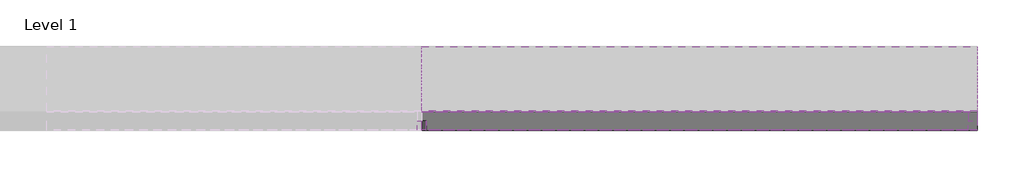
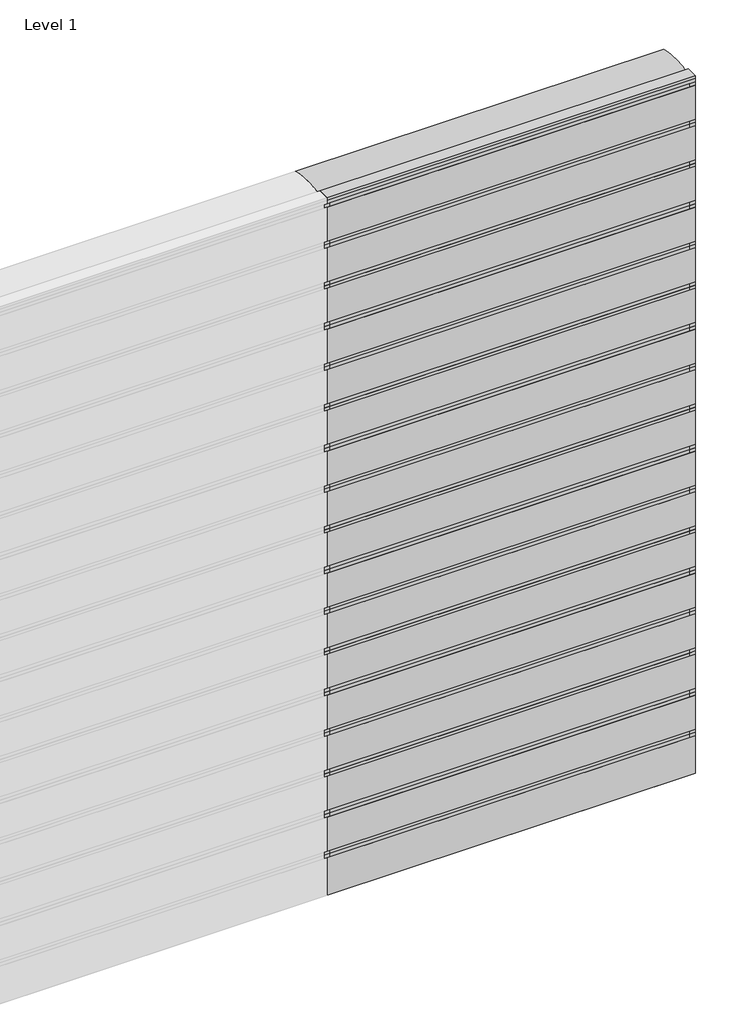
# One storey, part 2 of 2: 43 members, 36 plates.
"""IFC4 building model written with IfcOpenShell, lengths in millimetres."""

import ifcopenshell
import ifcopenshell.guid

model = None  # the IFC model being written
_history = None  # IfcOwnerHistory: only IFC2X3 demands one
_inside = {}  # id of a spatial element -> (the spatial element, [elements in it])
_under = {}  # id of a project, library or spatial element -> (it, [spatial elements below it])
_declared = {}  # id of a project -> (the project, [libraries it declares])
_typed = {}  # id of a type object -> (the type object, [elements of that type])
_made_of = {}  # id of a material, layer set ... -> (it, [elements and type objects made of it])


def new_model(schema):
    """Start an empty IFC model of exactly this schema.

    Asked for "IFC4X3", IfcOpenShell would pick the latest addendum, in which some entities
    have other attributes; the version numbers below select the first issue.
    IFC2X3 requires an IfcOwnerHistory on every rooted entity: one is made here for all.
    """
    global model, _history
    if schema == "IFC4X3":
        model = ifcopenshell.file(schema_version=(4, 3, 0, 0))
    else:
        model = ifcopenshell.file(schema=schema)
    _inside.clear()
    _under.clear()
    _declared.clear()
    _typed.clear()
    _made_of.clear()
    _history = None
    if model.schema == "IFC2X3":
        org = make("IfcOrganization", Name="unknown")
        user = make(
            "IfcPersonAndOrganization",
            ThePerson=make("IfcPerson", FamilyName="unknown"),
            TheOrganization=org,
        )
        app = make(
            "IfcApplication",
            ApplicationDeveloper=org,
            Version="unknown",
            ApplicationFullName="unknown",
            ApplicationIdentifier="unknown",
        )
        _history = make(
            "IfcOwnerHistory",
            OwningUser=user,
            OwningApplication=app,
            ChangeAction="ADDED",
            CreationDate=0,
        )
    return model


def make(cls, **values):
    """One entity of the class cls with the attributes given. An attribute that is None is left unset."""
    return model.create_entity(
        cls, **{name: value for name, value in values.items() if value is not None}
    )


def rooted(cls, **values):
    """An entity with a GlobalId (a new one), such as an element, a storey or a relation."""
    return make(cls, GlobalId=ifcopenshell.guid.new(), OwnerHistory=_history, **values)


def si_unit(unit_type, name, prefix=None):
    """IfcSIUnit, for example si_unit("LENGTHUNIT", "METRE", prefix="MILLI")."""
    return make("IfcSIUnit", UnitType=unit_type, Prefix=prefix, Name=name)


def assignment(units):
    """IfcUnitAssignment: the units of a project."""
    return None if units is None else make("IfcUnitAssignment", Units=units)


def point(xyz):
    """IfcCartesianPoint."""
    return None if xyz is None else make("IfcCartesianPoint", Coordinates=xyz)


def direction(xyz):
    """IfcDirection."""
    return None if xyz is None else make("IfcDirection", DirectionRatios=xyz)


def frame(location, z_axis=None, x_axis=None):
    """IfcAxis2Placement3D, a coordinate frame: its origin and axes. An axis left out is left unset."""
    return make(
        "IfcAxis2Placement3D",
        Location=point(location),
        Axis=direction(z_axis),
        RefDirection=direction(x_axis),
    )


def origin():
    """The frame at (0, 0, 0) with its axes left unset."""
    return frame((0.0, 0.0, 0.0))


def origin_with_axes():
    """The frame at (0, 0, 0) with the z axis (0, 0, 1) and the x axis (1, 0, 0) written out."""
    return frame((0.0, 0.0, 0.0), z_axis=(0.0, 0.0, 1.0), x_axis=(1.0, 0.0, 0.0))


def place(relative_to, where):
    """IfcLocalPlacement: puts the frame where relative to a parent placement (None: the world)."""
    return make(
        "IfcLocalPlacement", PlacementRelTo=relative_to, RelativePlacement=where
    )


def context(
    kind, dimensions, precision=None, world=None, true_north=None, identifier=None
):
    """IfcGeometricRepresentationContext, for example the 3D "Model" context."""
    return make(
        "IfcGeometricRepresentationContext",
        ContextIdentifier=identifier,
        ContextType=kind,
        CoordinateSpaceDimension=dimensions,
        Precision=precision,
        WorldCoordinateSystem=world,
        TrueNorth=true_north,
    )


def project(units=None, contexts=None):
    """IfcProject with its units and contexts."""
    return rooted(
        "IfcProject",
        Name="project",
        RepresentationContexts=contexts,
        UnitsInContext=assignment(units),
    )


def spatial(cls, under=None, at=None, **own):
    """A site, building, storey or space (cls), placed at a placement, below another one or the project."""
    s = rooted(cls, ObjectPlacement=at, **own)
    if under is not None:
        _under.setdefault(under.id(), (under, []))[1].append(s)
    return s


def polyline(points):
    """IfcPolyline through the points."""
    return make("IfcPolyline", Points=[point(p) for p in points])


def ellipse_curve(where, semi_axis1, semi_axis2):
    """IfcEllipse in the frame where."""
    return make(
        "IfcEllipse", Position=where, SemiAxis1=semi_axis1, SemiAxis2=semi_axis2
    )


def trimmed(basis, trim1, trim2, sense, master):
    """IfcTrimmedCurve: the piece of a basis curve between two trims."""
    return make(
        "IfcTrimmedCurve",
        BasisCurve=basis,
        Trim1=trim1,
        Trim2=trim2,
        SenseAgreement=sense,
        MasterRepresentation=master,
    )


def outline(outer, holes=None, kind="AREA"):
    """IfcArbitraryClosedProfileDef: a profile drawn as a closed curve; with holes, ...WithVoids."""
    if holes is None:
        return make("IfcArbitraryClosedProfileDef", ProfileType=kind, OuterCurve=outer)
    return make(
        "IfcArbitraryProfileDefWithVoids",
        ProfileType=kind,
        OuterCurve=outer,
        InnerCurves=holes,
    )


def extrude(swept, where, along, depth):
    """IfcExtrudedAreaSolid: the profile swept, set in the frame where, extruded along a direction by depth."""
    return make(
        "IfcExtrudedAreaSolid",
        SweptArea=swept,
        Position=where,
        ExtrudedDirection=direction(along),
        Depth=depth,
    )


def shape(context_of_items, identifier, shape_type, items):
    """IfcShapeRepresentation: the items that make up one representation, for example the "Body"."""
    return make(
        "IfcShapeRepresentation",
        ContextOfItems=context_of_items,
        RepresentationIdentifier=identifier,
        RepresentationType=shape_type,
        Items=items,
    )


def source(mapping_origin, context_of_items, identifier, shape_type, items):
    """IfcRepresentationMap: a shape defined once, which mapped items show again and again."""
    return make(
        "IfcRepresentationMap",
        MappingOrigin=mapping_origin,
        MappedRepresentation=shape(context_of_items, identifier, shape_type, items),
    )


def transform(
    local_origin,
    x_axis=None,
    y_axis=None,
    z_axis=None,
    scale=None,
    scale2=None,
    scale3=None,
    uniform=True,
):
    """IfcCartesianTransformationOperator3D, or its non-uniform kind. x_axis, y_axis, z_axis: its Axis1, 2, 3."""
    if uniform:
        return make(
            "IfcCartesianTransformationOperator3D",
            Axis1=direction(x_axis),
            Axis2=direction(y_axis),
            LocalOrigin=point(local_origin),
            Scale=scale,
            Axis3=direction(z_axis),
        )
    return make(
        "IfcCartesianTransformationOperator3DnonUniform",
        Axis1=direction(x_axis),
        Axis2=direction(y_axis),
        LocalOrigin=point(local_origin),
        Scale=scale,
        Axis3=direction(z_axis),
        Scale2=scale2,
        Scale3=scale3,
    )


def mapped(mapping_source, mapping_target):
    """IfcMappedItem: shows the shape of a source again, moved by a transform."""
    return make(
        "IfcMappedItem", MappingSource=mapping_source, MappingTarget=mapping_target
    )


def made_of(thing, what):
    """Note that an element or type object is made of a material, layer set ...; save() writes the relation."""
    if what is not None:
        _made_of.setdefault(what.id(), (what, []))[1].append(thing)
    return thing


def element(
    cls,
    number,
    at=None,
    inside=None,
    cuts=None,
    type_object=None,
    material=None,
    context=None,
    identifier="Body",
    shape_type=None,
    held_by="IfcProductDefinitionShape",
    body=None,
    shapes=None,
    **own,
):
    """One element of the class cls, such as IfcWall. Its Tag is "e" and its number.

    at: its placement. inside: the storey or other place that contains it. cuts: it is an
    opening in that element (IfcRelVoidsElement). A single representation is given by context,
    identifier, shape_type and body (its items); several are given by shapes. held_by: the class
    of the entity that holds the representations. save() writes the other relations.
    """
    e = rooted(cls, Tag="e%d" % number, ObjectPlacement=at, **own)
    if body is not None:
        shapes = [shape(context, identifier, shape_type, body)]
    if shapes is not None:
        e.Representation = make(held_by, Representations=shapes)
    if inside is not None:
        _inside.setdefault(inside.id(), (inside, []))[1].append(e)
    if cuts is not None:
        rooted(
            "IfcRelVoidsElement", RelatingBuildingElement=cuts, RelatedOpeningElement=e
        )
    if type_object is not None:
        _typed.setdefault(type_object.id(), (type_object, []))[1].append(e)
    return made_of(e, material)


def aggregate(whole, parts):
    """IfcRelAggregates: a whole, such as a stair, and the parts it consists of."""
    return rooted("IfcRelAggregates", RelatingObject=whole, RelatedObjects=parts)


def save(model, path):
    """Write the relations noted so far, then the file.

    IfcRelAggregates (storeys below a building ...), IfcRelContainedInSpatialStructure (elements
    in a storey), IfcRelDefinesByType, IfcRelAssociatesMaterial and IfcRelDeclares: one each for
    every whole, place, type object, material and project.
    """
    for whole, parts in _under.values():
        aggregate(whole, parts)
    for where, things in _inside.values():
        rooted(
            "IfcRelContainedInSpatialStructure",
            RelatedElements=things,
            RelatingStructure=where,
        )
    for kind, things in _typed.values():
        rooted("IfcRelDefinesByType", RelatedObjects=things, RelatingType=kind)
    for what, things in _made_of.values():
        rooted("IfcRelAssociatesMaterial", RelatedObjects=things, RelatingMaterial=what)
    for by, libraries in _declared.values():
        rooted("IfcRelDeclares", RelatingContext=by, RelatedDefinitions=libraries)
    model.write(path)


def plane_surface(at):
    """IfcPlane: the flat surface through the origin of the frame at, square to its z axis."""
    return make("IfcPlane", Position=at)


def extruded_surface(curve, direction_of_extrusion, depth):
    """IfcSurfaceOfLinearExtrusion: the curve pushed along a direction by depth."""
    return make(
        "IfcSurfaceOfLinearExtrusion",
        SweptCurve=make("IfcArbitraryOpenProfileDef", ProfileType="CURVE", Curve=curve),
        ExtrudedDirection=direction(direction_of_extrusion),
        Depth=depth,
    )


def advanced_brep(points, edges, surfaces, faces):
    """IfcAdvancedBrep: a solid bounded by faces that lie on surfaces and meet in shared edges.

    An edge is (start, end): straight between two places in points (the first is 0);
    or (start, end, curve); or (start, end, curve, False) where it runs against its curve.
    A face is (place in surfaces, loops), or (place, loops, False) where it looks against
    its surface's normal. A loop lists edges by number (the first is 1), with a minus sign
    where the edge is run from its end to its start. The first loop is the outer one.
    """
    corners = [point(p) for p in points]
    vertices = [make("IfcVertexPoint", VertexGeometry=c) for c in corners]
    made = []
    for start, end, *more in edges:
        made.append(
            make(
                "IfcEdgeCurve",
                EdgeStart=vertices[start],
                EdgeEnd=vertices[end],
                EdgeGeometry=more[0] if more else make("IfcPolyline", Points=[corners[start], corners[end]]),
                SameSense=more[1] if len(more) > 1 else True,
            )
        )
    hull = []
    for where, loops, *sense in faces:
        bounds = []
        for j, loop in enumerate(loops):
            ring = [make("IfcOrientedEdge", EdgeElement=made[abs(k) - 1], Orientation=k > 0) for k in loop]
            bounds.append(
                make(
                    "IfcFaceOuterBound" if j == 0 else "IfcFaceBound",
                    Bound=make("IfcEdgeLoop", EdgeList=ring),
                    Orientation=True,
                )
            )
        hull.append(make("IfcAdvancedFace", Bounds=bounds, FaceSurface=surfaces[where], SameSense=sense[0] if sense else True))
    return make("IfcAdvancedBrep", Outer=make("IfcClosedShell", CfsFaces=hull))


def rectangular_mullion_7b7f291e(model_context):
    return source(origin(), model_context, "Body", "AdvancedBrep", [
        advanced_brep(
        [(0.0, 53.0, 0.0), (0.0, 403.0, 0.0), (0.0, 53.0, -3000.0), (0.0, 403.0, -3000.0)],
        [
            (0, 1, ellipse_curve(frame((0.0, 228.0, 0.0), z_axis=(0.0, 0.0, 1.0), x_axis=(0.0, 1.0, 0.0)), 175.0, 28.5)),
            (1, 0, ellipse_curve(frame((0.0, 228.0, 0.0), z_axis=(0.0, 0.0, 1.0), x_axis=(0.0, 1.0, 0.0)), 175.0, 28.5)),
            (2, 3, ellipse_curve(frame((0.0, 228.0, -3000.0), z_axis=(0.0, 0.0, -1.0), x_axis=(0.0, 1.0, 0.0)), 175.0, 28.5)),
            (3, 2, ellipse_curve(frame((0.0, 228.0, -3000.0), z_axis=(0.0, 0.0, -1.0), x_axis=(0.0, 1.0, 0.0)), 175.0, 28.5)),
            (0, 2),
            (3, 1),
        ],
        [
            plane_surface(frame((0.0, -403.0, 0.0), z_axis=(0.0, 0.0, 1.0), x_axis=(-1.0, 0.0, 0.0))),
            plane_surface(frame((0.0, -403.0, -3000.0), z_axis=(0.0, 0.0, -1.0), x_axis=(-1.0, 0.0, 0.0))),
            extruded_surface(trimmed(ellipse_curve(frame((0.0, 228.0, -3000.0), z_axis=(0.0, 0.0, 1.0), x_axis=(0.0, 1.0, 0.0)), 175.0, 28.5), [point((0.0, 53.0, -3000.0))], [point((0.0, 403.0, -3000.0))], True, "CARTESIAN"), (0.0, 0.0, 3000.0), 3000.0),
            extruded_surface(trimmed(ellipse_curve(frame((0.0, 228.0, -3000.0), z_axis=(0.0, 0.0, 1.0), x_axis=(0.0, 1.0, 0.0)), 175.0, 28.5), [point((0.0, 403.0, -3000.0))], [point((0.0, 53.0, -3000.0))], True, "CARTESIAN"), (0.0, 0.0, 3000.0), 3000.0),
        ],
        [
            (0, [[1, 2]]),
            (1, [[3, 4]]),
            (2, [[-1, 5, -4, 6]]),
            (3, [[-2, -6, -3, -5]]),
        ],
    ),
    ])


def rectangular_mullion_94c598e1(model_context):
    return source(origin(), model_context, "Body", "SweptSolid", [
        extrude(outline(polyline([(25.0, 1.0), (25.0, -49.0), (-25.0, -49.0), (-25.0, 1.0), (25.0, 1.0)])), frame((0.0, 0.0, -350.0), z_axis=(0.0, 0.0, 1.0), x_axis=(1.0, 0.0, 0.0)), (0.0, 0.0, 1.0), 350.0),
    ])


def rectangular_mullion_98250b89(model_context):
    return source(origin(), model_context, "Body", "SweptSolid", [
        extrude(outline(polyline([(-50.0, 1.0), (0.0, 1.0), (0.0, -49.0), (-50.0, -49.0), (-50.0, 1.0)])), frame((0.0, 0.0, -350.0), z_axis=(0.0, 0.0, 1.0), x_axis=(1.0, 0.0, 0.0)), (0.0, 0.0, 1.0), 350.0),
    ])


def empty_system_panel_empty_44c4d881(model_context):
    return source(origin(), model_context, "Body", "SweptSolid", [
        extrude(outline(polyline([(1500.0, -50.0), (-1500.0, -50.0), (-1500.0, 50.0), (1500.0, 50.0), (1500.0, -50.0)])), origin_with_axes(), (0.0, 0.0, 1.0), 21.5),
    ])


def empty_system_panel_empty_7f9a0b37(model_context):
    return source(origin(), model_context, "Body", "SweptSolid", [
        extrude(outline(polyline([(1500.0, -50.0), (-1500.0, -50.0), (-1500.0, 50.0), (1500.0, 50.0), (1500.0, -50.0)])), origin_with_axes(), (0.0, 0.0, 1.0), 321.5),
    ])


def empty_system_panel_empty_ea27b686(model_context):
    return source(origin(), model_context, "Body", "SweptSolid", [
        extrude(outline(polyline([(1500.0, -50.0), (-1500.0, -50.0), (-1500.0, 50.0), (1500.0, 50.0), (1500.0, -50.0)])), origin_with_axes(), (0.0, 0.0, 1.0), 293.0),
    ])


def empty_system_panel_empty_a0d4dec4(model_context):
    return source(origin(), model_context, "Body", "SweptSolid", [
        extrude(outline(polyline([(1462.5, -50.0), (-1462.5, -50.0), (-1462.5, 50.0), (1462.5, 50.0), (1462.5, -50.0)])), origin_with_axes(), (0.0, 0.0, 1.0), 350.0),
    ])


def empty_system_panel_empty_5b0c2a42(model_context):
    return source(origin(), model_context, "Body", "SweptSolid", [
        extrude(outline(polyline([(1500.0, -50.0), (-1500.0, -50.0), (-1500.0, 50.0), (1500.0, 50.0), (1500.0, -50.0)])), origin_with_axes(), (0.0, 0.0, 1.0), 50.0),
    ])


model = new_model("IFC4")

# Units and contexts
model_context = context("Model", 3, world=origin())
ifc_project = project(units=[si_unit("LENGTHUNIT", "METRE", prefix="MILLI")], contexts=[model_context])

# Site, building, storey
site = spatial("IfcSite", under=ifc_project)
building = spatial("IfcBuilding", under=site)
storey = spatial("IfcBuildingStorey", under=building, Name="Level 1", Elevation=0.0)

# Members
placement = place(None, origin())
rectangular_mullion_shape = rectangular_mullion_7b7f291e(model_context)
element("IfcMember", 1, ObjectType="Rectangular Mullion : RSen_21_CWM_blade - 350 ellips - 0°_gen_duco projects", at=placement, inside=storey, context=model_context, shape_type="MappedRepresentation", body=[
    mapped(rectangular_mullion_shape, transform((3000.0, 3000.0, 3150.0), x_axis=(0.0, 0.0, 1.0), y_axis=(0.0, 1.0, 0.0), z_axis=(-1.0, 0.0, 0.0))),
])
element("IfcMember", 2, ObjectType="Rectangular Mullion : RSen_21_CWM_blade - 350 ellips - 0°_gen_duco projects", at=placement, inside=storey, context=model_context, shape_type="MappedRepresentation", body=[
    mapped(rectangular_mullion_shape, transform((3000.0, 3000.0, 3500.0), x_axis=(0.0, 0.0, 1.0), y_axis=(0.0, 1.0, 0.0), z_axis=(-1.0, 0.0, 0.0))),
])
element("IfcMember", 3, ObjectType="Rectangular Mullion : RSen_21_CWM_blade - 350 ellips - 0°_gen_duco projects", at=placement, inside=storey, context=model_context, shape_type="MappedRepresentation", body=[
    mapped(rectangular_mullion_shape, transform((3000.0, 3000.0, 3850.0), x_axis=(0.0, 0.0, 1.0), y_axis=(0.0, 1.0, 0.0), z_axis=(-1.0, 0.0, 0.0))),
])
element("IfcMember", 4, ObjectType="Rectangular Mullion : RSen_21_CWM_blade - 350 ellips - 0°_gen_duco projects", at=placement, inside=storey, context=model_context, shape_type="MappedRepresentation", body=[
    mapped(rectangular_mullion_shape, transform((3000.0, 3000.0, 4200.0), x_axis=(0.0, 0.0, 1.0), y_axis=(0.0, 1.0, 0.0), z_axis=(-1.0, 0.0, 0.0))),
])
element("IfcMember", 5, ObjectType="Rectangular Mullion : RSen_21_CWM_blade - 350 ellips - 0°_gen_duco projects", at=placement, inside=storey, context=model_context, shape_type="MappedRepresentation", body=[
    mapped(rectangular_mullion_shape, transform((3000.0, 3000.0, 4550.0), x_axis=(0.0, 0.0, 1.0), y_axis=(0.0, 1.0, 0.0), z_axis=(-1.0, 0.0, 0.0))),
])
element("IfcMember", 6, ObjectType="Rectangular Mullion : RSen_21_CWM_blade - 350 ellips - 0°_gen_duco projects", at=placement, inside=storey, context=model_context, shape_type="MappedRepresentation", body=[
    mapped(rectangular_mullion_shape, transform((3000.0, 3000.0, 4900.0), x_axis=(0.0, 0.0, 1.0), y_axis=(0.0, 1.0, 0.0), z_axis=(-1.0, 0.0, 0.0))),
])
element("IfcMember", 7, ObjectType="Rectangular Mullion : RSen_21_CWM_blade - 350 ellips - 0°_gen_duco projects", at=placement, inside=storey, context=model_context, shape_type="MappedRepresentation", body=[
    mapped(rectangular_mullion_shape, transform((3000.0, 3000.0, 5250.0), x_axis=(0.0, 0.0, 1.0), y_axis=(0.0, 1.0, 0.0), z_axis=(-1.0, 0.0, 0.0))),
])
element("IfcMember", 8, ObjectType="Rectangular Mullion : RSen_21_CWM_blade - 350 ellips - 0°_gen_duco projects", at=placement, inside=storey, context=model_context, shape_type="MappedRepresentation", body=[
    mapped(rectangular_mullion_shape, transform((3000.0, 3000.0, 5600.0), x_axis=(0.0, 0.0, 1.0), y_axis=(0.0, 1.0, 0.0), z_axis=(-1.0, 0.0, 0.0))),
])
element("IfcMember", 9, ObjectType="Rectangular Mullion : RSen_21_CWM_blade - 350 ellips - 0°_gen_duco projects", at=placement, inside=storey, context=model_context, shape_type="MappedRepresentation", body=[
    mapped(rectangular_mullion_shape, transform((3000.0, 3000.0, 5950.0), x_axis=(0.0, 0.0, 1.0), y_axis=(0.0, 1.0, 0.0), z_axis=(-1.0, 0.0, 0.0))),
])
rectangular_mullion_2_shape = rectangular_mullion_94c598e1(model_context)
element("IfcMember", 10, ObjectType="Rectangular Mullion : RSen_21_CWM_support profile 50x50_gen_duco projects", at=placement, inside=storey, context=model_context, shape_type="MappedRepresentation", body=[
    mapped(rectangular_mullion_2_shape, transform((3000.0, 3000.0, 0.0), x_axis=(-1.0, 0.0, 0.0), y_axis=(0.0, 1.0, 0.0), z_axis=(0.0, 0.0, -1.0))),
])
element("IfcMember", 11, ObjectType="Rectangular Mullion : RSen_21_CWM_support profile 50x50_gen_duco projects", at=placement, inside=storey, context=model_context, shape_type="MappedRepresentation", body=[
    mapped(rectangular_mullion_2_shape, transform((3000.0, 3000.0, 350.0), x_axis=(-1.0, 0.0, 0.0), y_axis=(0.0, 1.0, 0.0), z_axis=(0.0, 0.0, -1.0))),
])
element("IfcMember", 12, ObjectType="Rectangular Mullion : RSen_21_CWM_support profile 50x50_gen_duco projects", at=placement, inside=storey, context=model_context, shape_type="MappedRepresentation", body=[
    mapped(rectangular_mullion_2_shape, transform((3000.0, 3000.0, 700.0), x_axis=(-1.0, 0.0, 0.0), y_axis=(0.0, 1.0, 0.0), z_axis=(0.0, 0.0, -1.0))),
])
element("IfcMember", 13, ObjectType="Rectangular Mullion : RSen_21_CWM_support profile 50x50_gen_duco projects", at=placement, inside=storey, context=model_context, shape_type="MappedRepresentation", body=[
    mapped(rectangular_mullion_2_shape, transform((3000.0, 3000.0, 1050.0), x_axis=(-1.0, 0.0, 0.0), y_axis=(0.0, 1.0, 0.0), z_axis=(0.0, 0.0, -1.0))),
])
element("IfcMember", 14, ObjectType="Rectangular Mullion : RSen_21_CWM_support profile 50x50_gen_duco projects", at=placement, inside=storey, context=model_context, shape_type="MappedRepresentation", body=[
    mapped(rectangular_mullion_2_shape, transform((3000.0, 3000.0, 1400.0), x_axis=(-1.0, 0.0, 0.0), y_axis=(0.0, 1.0, 0.0), z_axis=(0.0, 0.0, -1.0))),
])
element("IfcMember", 15, ObjectType="Rectangular Mullion : RSen_21_CWM_support profile 50x50_gen_duco projects", at=placement, inside=storey, context=model_context, shape_type="MappedRepresentation", body=[
    mapped(rectangular_mullion_2_shape, transform((3000.0, 3000.0, 1750.0), x_axis=(-1.0, 0.0, 0.0), y_axis=(0.0, 1.0, 0.0), z_axis=(0.0, 0.0, -1.0))),
])
element("IfcMember", 16, ObjectType="Rectangular Mullion : RSen_21_CWM_support profile 50x50_gen_duco projects", at=placement, inside=storey, context=model_context, shape_type="MappedRepresentation", body=[
    mapped(rectangular_mullion_2_shape, transform((3000.0, 3000.0, 2100.0), x_axis=(-1.0, 0.0, 0.0), y_axis=(0.0, 1.0, 0.0), z_axis=(0.0, 0.0, -1.0))),
])
element("IfcMember", 17, ObjectType="Rectangular Mullion : RSen_21_CWM_support profile 50x50_gen_duco projects", at=placement, inside=storey, context=model_context, shape_type="MappedRepresentation", body=[
    mapped(rectangular_mullion_2_shape, transform((3000.0, 3000.0, 2450.0), x_axis=(-1.0, 0.0, 0.0), y_axis=(0.0, 1.0, 0.0), z_axis=(0.0, 0.0, -1.0))),
])
element("IfcMember", 18, ObjectType="Rectangular Mullion : RSen_21_CWM_support profile 50x50_gen_duco projects", at=placement, inside=storey, context=model_context, shape_type="MappedRepresentation", body=[
    mapped(rectangular_mullion_2_shape, transform((3000.0, 3000.0, 2800.0), x_axis=(-1.0, 0.0, 0.0), y_axis=(0.0, 1.0, 0.0), z_axis=(0.0, 0.0, -1.0))),
])
element("IfcMember", 19, ObjectType="Rectangular Mullion : RSen_21_CWM_support profile 50x50_gen_duco projects", at=placement, inside=storey, context=model_context, shape_type="MappedRepresentation", body=[
    mapped(rectangular_mullion_2_shape, transform((3000.0, 3000.0, 3150.0), x_axis=(-1.0, 0.0, 0.0), y_axis=(0.0, 1.0, 0.0), z_axis=(0.0, 0.0, -1.0))),
])
element("IfcMember", 20, ObjectType="Rectangular Mullion : RSen_21_CWM_support profile 50x50_gen_duco projects", at=placement, inside=storey, context=model_context, shape_type="MappedRepresentation", body=[
    mapped(rectangular_mullion_2_shape, transform((3000.0, 3000.0, 3500.0), x_axis=(-1.0, 0.0, 0.0), y_axis=(0.0, 1.0, 0.0), z_axis=(0.0, 0.0, -1.0))),
])
element("IfcMember", 21, ObjectType="Rectangular Mullion : RSen_21_CWM_support profile 50x50_gen_duco projects", at=placement, inside=storey, context=model_context, shape_type="MappedRepresentation", body=[
    mapped(rectangular_mullion_2_shape, transform((3000.0, 3000.0, 3850.0), x_axis=(-1.0, 0.0, 0.0), y_axis=(0.0, 1.0, 0.0), z_axis=(0.0, 0.0, -1.0))),
])
element("IfcMember", 22, ObjectType="Rectangular Mullion : RSen_21_CWM_support profile 50x50_gen_duco projects", at=placement, inside=storey, context=model_context, shape_type="MappedRepresentation", body=[
    mapped(rectangular_mullion_2_shape, transform((3000.0, 3000.0, 4200.0), x_axis=(-1.0, 0.0, 0.0), y_axis=(0.0, 1.0, 0.0), z_axis=(0.0, 0.0, -1.0))),
])
element("IfcMember", 23, ObjectType="Rectangular Mullion : RSen_21_CWM_support profile 50x50_gen_duco projects", at=placement, inside=storey, context=model_context, shape_type="MappedRepresentation", body=[
    mapped(rectangular_mullion_2_shape, transform((3000.0, 3000.0, 4550.0), x_axis=(-1.0, 0.0, 0.0), y_axis=(0.0, 1.0, 0.0), z_axis=(0.0, 0.0, -1.0))),
])
element("IfcMember", 24, ObjectType="Rectangular Mullion : RSen_21_CWM_support profile 50x50_gen_duco projects", at=placement, inside=storey, context=model_context, shape_type="MappedRepresentation", body=[
    mapped(rectangular_mullion_2_shape, transform((3000.0, 3000.0, 4900.0), x_axis=(-1.0, 0.0, 0.0), y_axis=(0.0, 1.0, 0.0), z_axis=(0.0, 0.0, -1.0))),
])
element("IfcMember", 25, ObjectType="Rectangular Mullion : RSen_21_CWM_support profile 50x50_gen_duco projects", at=placement, inside=storey, context=model_context, shape_type="MappedRepresentation", body=[
    mapped(rectangular_mullion_2_shape, transform((3000.0, 3000.0, 5250.0), x_axis=(-1.0, 0.0, 0.0), y_axis=(0.0, 1.0, 0.0), z_axis=(0.0, 0.0, -1.0))),
])
element("IfcMember", 26, ObjectType="Rectangular Mullion : RSen_21_CWM_support profile 50x50_gen_duco projects", at=placement, inside=storey, context=model_context, shape_type="MappedRepresentation", body=[
    mapped(rectangular_mullion_2_shape, transform((3000.0, 3000.0, 5600.0), x_axis=(-1.0, 0.0, 0.0), y_axis=(0.0, 1.0, 0.0), z_axis=(0.0, 0.0, -1.0))),
])
rectangular_mullion_3_shape = rectangular_mullion_98250b89(model_context)
element("IfcMember", 27, ObjectType="Rectangular Mullion : RSen_21_CWM_support profile 50x50 - right_gen_duco projects", at=placement, inside=storey, context=model_context, shape_type="MappedRepresentation", body=[
    mapped(rectangular_mullion_3_shape, transform((6000.0, 3000.0, 350.0), x_axis=(1.0, 0.0, 0.0), y_axis=(0.0, 1.0, 0.0), z_axis=(0.0, 0.0, 1.0))),
])
element("IfcMember", 28, ObjectType="Rectangular Mullion : RSen_21_CWM_support profile 50x50 - right_gen_duco projects", at=placement, inside=storey, context=model_context, shape_type="MappedRepresentation", body=[
    mapped(rectangular_mullion_3_shape, transform((6000.0, 3000.0, 700.0), x_axis=(1.0, 0.0, 0.0), y_axis=(0.0, 1.0, 0.0), z_axis=(0.0, 0.0, 1.0))),
])
element("IfcMember", 29, ObjectType="Rectangular Mullion : RSen_21_CWM_support profile 50x50 - right_gen_duco projects", at=placement, inside=storey, context=model_context, shape_type="MappedRepresentation", body=[
    mapped(rectangular_mullion_3_shape, transform((6000.0, 3000.0, 1050.0), x_axis=(1.0, 0.0, 0.0), y_axis=(0.0, 1.0, 0.0), z_axis=(0.0, 0.0, 1.0))),
])
element("IfcMember", 30, ObjectType="Rectangular Mullion : RSen_21_CWM_support profile 50x50 - right_gen_duco projects", at=placement, inside=storey, context=model_context, shape_type="MappedRepresentation", body=[
    mapped(rectangular_mullion_3_shape, transform((6000.0, 3000.0, 1400.0), x_axis=(1.0, 0.0, 0.0), y_axis=(0.0, 1.0, 0.0), z_axis=(0.0, 0.0, 1.0))),
])
element("IfcMember", 31, ObjectType="Rectangular Mullion : RSen_21_CWM_support profile 50x50 - right_gen_duco projects", at=placement, inside=storey, context=model_context, shape_type="MappedRepresentation", body=[
    mapped(rectangular_mullion_3_shape, transform((6000.0, 3000.0, 1750.0), x_axis=(1.0, 0.0, 0.0), y_axis=(0.0, 1.0, 0.0), z_axis=(0.0, 0.0, 1.0))),
])
element("IfcMember", 32, ObjectType="Rectangular Mullion : RSen_21_CWM_support profile 50x50 - right_gen_duco projects", at=placement, inside=storey, context=model_context, shape_type="MappedRepresentation", body=[
    mapped(rectangular_mullion_3_shape, transform((6000.0, 3000.0, 2100.0), x_axis=(1.0, 0.0, 0.0), y_axis=(0.0, 1.0, 0.0), z_axis=(0.0, 0.0, 1.0))),
])
element("IfcMember", 33, ObjectType="Rectangular Mullion : RSen_21_CWM_support profile 50x50 - right_gen_duco projects", at=placement, inside=storey, context=model_context, shape_type="MappedRepresentation", body=[
    mapped(rectangular_mullion_3_shape, transform((6000.0, 3000.0, 2450.0), x_axis=(1.0, 0.0, 0.0), y_axis=(0.0, 1.0, 0.0), z_axis=(0.0, 0.0, 1.0))),
])
element("IfcMember", 34, ObjectType="Rectangular Mullion : RSen_21_CWM_support profile 50x50 - right_gen_duco projects", at=placement, inside=storey, context=model_context, shape_type="MappedRepresentation", body=[
    mapped(rectangular_mullion_3_shape, transform((6000.0, 3000.0, 2800.0), x_axis=(1.0, 0.0, 0.0), y_axis=(0.0, 1.0, 0.0), z_axis=(0.0, 0.0, 1.0))),
])
element("IfcMember", 35, ObjectType="Rectangular Mullion : RSen_21_CWM_support profile 50x50 - right_gen_duco projects", at=placement, inside=storey, context=model_context, shape_type="MappedRepresentation", body=[
    mapped(rectangular_mullion_3_shape, transform((6000.0, 3000.0, 3150.0), x_axis=(1.0, 0.0, 0.0), y_axis=(0.0, 1.0, 0.0), z_axis=(0.0, 0.0, 1.0))),
])
element("IfcMember", 36, ObjectType="Rectangular Mullion : RSen_21_CWM_support profile 50x50 - right_gen_duco projects", at=placement, inside=storey, context=model_context, shape_type="MappedRepresentation", body=[
    mapped(rectangular_mullion_3_shape, transform((6000.0, 3000.0, 3500.0), x_axis=(1.0, 0.0, 0.0), y_axis=(0.0, 1.0, 0.0), z_axis=(0.0, 0.0, 1.0))),
])
element("IfcMember", 37, ObjectType="Rectangular Mullion : RSen_21_CWM_support profile 50x50 - right_gen_duco projects", at=placement, inside=storey, context=model_context, shape_type="MappedRepresentation", body=[
    mapped(rectangular_mullion_3_shape, transform((6000.0, 3000.0, 3850.0), x_axis=(1.0, 0.0, 0.0), y_axis=(0.0, 1.0, 0.0), z_axis=(0.0, 0.0, 1.0))),
])
element("IfcMember", 38, ObjectType="Rectangular Mullion : RSen_21_CWM_support profile 50x50 - right_gen_duco projects", at=placement, inside=storey, context=model_context, shape_type="MappedRepresentation", body=[
    mapped(rectangular_mullion_3_shape, transform((6000.0, 3000.0, 4200.0), x_axis=(1.0, 0.0, 0.0), y_axis=(0.0, 1.0, 0.0), z_axis=(0.0, 0.0, 1.0))),
])
element("IfcMember", 39, ObjectType="Rectangular Mullion : RSen_21_CWM_support profile 50x50 - right_gen_duco projects", at=placement, inside=storey, context=model_context, shape_type="MappedRepresentation", body=[
    mapped(rectangular_mullion_3_shape, transform((6000.0, 3000.0, 4550.0), x_axis=(1.0, 0.0, 0.0), y_axis=(0.0, 1.0, 0.0), z_axis=(0.0, 0.0, 1.0))),
])
element("IfcMember", 40, ObjectType="Rectangular Mullion : RSen_21_CWM_support profile 50x50 - right_gen_duco projects", at=placement, inside=storey, context=model_context, shape_type="MappedRepresentation", body=[
    mapped(rectangular_mullion_3_shape, transform((6000.0, 3000.0, 4900.0), x_axis=(1.0, 0.0, 0.0), y_axis=(0.0, 1.0, 0.0), z_axis=(0.0, 0.0, 1.0))),
])
element("IfcMember", 41, ObjectType="Rectangular Mullion : RSen_21_CWM_support profile 50x50 - right_gen_duco projects", at=placement, inside=storey, context=model_context, shape_type="MappedRepresentation", body=[
    mapped(rectangular_mullion_3_shape, transform((6000.0, 3000.0, 5250.0), x_axis=(1.0, 0.0, 0.0), y_axis=(0.0, 1.0, 0.0), z_axis=(0.0, 0.0, 1.0))),
])
element("IfcMember", 42, ObjectType="Rectangular Mullion : RSen_21_CWM_support profile 50x50 - right_gen_duco projects", at=placement, inside=storey, context=model_context, shape_type="MappedRepresentation", body=[
    mapped(rectangular_mullion_3_shape, transform((6000.0, 3000.0, 5600.0), x_axis=(1.0, 0.0, 0.0), y_axis=(0.0, 1.0, 0.0), z_axis=(0.0, 0.0, 1.0))),
])
element("IfcMember", 43, ObjectType="Rectangular Mullion : RSen_21_CWM_support profile 50x50 - right_gen_duco projects", at=placement, inside=storey, context=model_context, shape_type="MappedRepresentation", body=[
    mapped(rectangular_mullion_3_shape, transform((6000.0, 3000.0, 5950.0), x_axis=(1.0, 0.0, 0.0), y_axis=(0.0, 1.0, 0.0), z_axis=(0.0, 0.0, 1.0))),
])

# Plates
empty_system_panel_empty_shape = empty_system_panel_empty_44c4d881(model_context)
element("IfcPlate", 44, ObjectType="Empty System Panel : Empty", at=placement, inside=storey, context=model_context, shape_type="MappedRepresentation", body=[
    mapped(empty_system_panel_empty_shape, transform((4500.0, 3000.0, 5978.5), x_axis=(-1.0, 0.0, 0.0), y_axis=(0.0, -1.0, 0.0), z_axis=(0.0, 0.0, 1.0))),
])
empty_system_panel_empty_2_shape = empty_system_panel_empty_7f9a0b37(model_context)
element("IfcPlate", 45, ObjectType="Empty System Panel : Empty", at=placement, inside=storey, context=model_context, shape_type="MappedRepresentation", body=[
    mapped(empty_system_panel_empty_2_shape, transform((4500.0, 3000.0, 0.0), x_axis=(-1.0, 0.0, 0.0), y_axis=(0.0, -1.0, 0.0), z_axis=(0.0, 0.0, 1.0))),
])
empty_system_panel_empty_3_shape = empty_system_panel_empty_ea27b686(model_context)
element("IfcPlate", 46, ObjectType="Empty System Panel : Empty", at=placement, inside=storey, context=model_context, shape_type="MappedRepresentation", body=[
    mapped(empty_system_panel_empty_3_shape, transform((4500.0, 3000.0, 378.5), x_axis=(-1.0, 0.0, 0.0), y_axis=(0.0, -1.0, 0.0), z_axis=(0.0, 0.0, 1.0))),
])
element("IfcPlate", 47, ObjectType="Empty System Panel : Empty", at=placement, inside=storey, context=model_context, shape_type="MappedRepresentation", body=[
    mapped(empty_system_panel_empty_3_shape, transform((4500.0, 3000.0, 728.5), x_axis=(-1.0, 0.0, 0.0), y_axis=(0.0, -1.0, 0.0), z_axis=(0.0, 0.0, 1.0))),
])
element("IfcPlate", 48, ObjectType="Empty System Panel : Empty", at=placement, inside=storey, context=model_context, shape_type="MappedRepresentation", body=[
    mapped(empty_system_panel_empty_3_shape, transform((4500.0, 3000.0, 1078.5), x_axis=(-1.0, 0.0, 0.0), y_axis=(0.0, -1.0, 0.0), z_axis=(0.0, 0.0, 1.0))),
])
element("IfcPlate", 49, ObjectType="Empty System Panel : Empty", at=placement, inside=storey, context=model_context, shape_type="MappedRepresentation", body=[
    mapped(empty_system_panel_empty_3_shape, transform((4500.0, 3000.0, 1428.5), x_axis=(-1.0, 0.0, 0.0), y_axis=(0.0, -1.0, 0.0), z_axis=(0.0, 0.0, 1.0))),
])
element("IfcPlate", 50, ObjectType="Empty System Panel : Empty", at=placement, inside=storey, context=model_context, shape_type="MappedRepresentation", body=[
    mapped(empty_system_panel_empty_3_shape, transform((4500.0, 3000.0, 1778.5), x_axis=(-1.0, 0.0, 0.0), y_axis=(0.0, -1.0, 0.0), z_axis=(0.0, 0.0, 1.0))),
])
element("IfcPlate", 51, ObjectType="Empty System Panel : Empty", at=placement, inside=storey, context=model_context, shape_type="MappedRepresentation", body=[
    mapped(empty_system_panel_empty_3_shape, transform((4500.0, 3000.0, 2128.5), x_axis=(-1.0, 0.0, 0.0), y_axis=(0.0, -1.0, 0.0), z_axis=(0.0, 0.0, 1.0))),
])
element("IfcPlate", 52, ObjectType="Empty System Panel : Empty", at=placement, inside=storey, context=model_context, shape_type="MappedRepresentation", body=[
    mapped(empty_system_panel_empty_3_shape, transform((4500.0, 3000.0, 2478.5), x_axis=(-1.0, 0.0, 0.0), y_axis=(0.0, -1.0, 0.0), z_axis=(0.0, 0.0, 1.0))),
])
element("IfcPlate", 53, ObjectType="Empty System Panel : Empty", at=placement, inside=storey, context=model_context, shape_type="MappedRepresentation", body=[
    mapped(empty_system_panel_empty_3_shape, transform((4500.0, 3000.0, 2828.5), x_axis=(-1.0, 0.0, 0.0), y_axis=(0.0, -1.0, 0.0), z_axis=(0.0, 0.0, 1.0))),
])
element("IfcPlate", 54, ObjectType="Empty System Panel : Empty", at=placement, inside=storey, context=model_context, shape_type="MappedRepresentation", body=[
    mapped(empty_system_panel_empty_3_shape, transform((4500.0, 3000.0, 3178.5), x_axis=(-1.0, 0.0, 0.0), y_axis=(0.0, -1.0, 0.0), z_axis=(0.0, 0.0, 1.0))),
])
element("IfcPlate", 55, ObjectType="Empty System Panel : Empty", at=placement, inside=storey, context=model_context, shape_type="MappedRepresentation", body=[
    mapped(empty_system_panel_empty_3_shape, transform((4500.0, 3000.0, 3528.5), x_axis=(-1.0, 0.0, 0.0), y_axis=(0.0, -1.0, 0.0), z_axis=(0.0, 0.0, 1.0))),
])
element("IfcPlate", 56, ObjectType="Empty System Panel : Empty", at=placement, inside=storey, context=model_context, shape_type="MappedRepresentation", body=[
    mapped(empty_system_panel_empty_3_shape, transform((4500.0, 3000.0, 3878.5), x_axis=(-1.0, 0.0, 0.0), y_axis=(0.0, -1.0, 0.0), z_axis=(0.0, 0.0, 1.0))),
])
element("IfcPlate", 57, ObjectType="Empty System Panel : Empty", at=placement, inside=storey, context=model_context, shape_type="MappedRepresentation", body=[
    mapped(empty_system_panel_empty_3_shape, transform((4500.0, 3000.0, 4228.5), x_axis=(-1.0, 0.0, 0.0), y_axis=(0.0, -1.0, 0.0), z_axis=(0.0, 0.0, 1.0))),
])
element("IfcPlate", 58, ObjectType="Empty System Panel : Empty", at=placement, inside=storey, context=model_context, shape_type="MappedRepresentation", body=[
    mapped(empty_system_panel_empty_3_shape, transform((4500.0, 3000.0, 4578.5), x_axis=(-1.0, 0.0, 0.0), y_axis=(0.0, -1.0, 0.0), z_axis=(0.0, 0.0, 1.0))),
])
element("IfcPlate", 59, ObjectType="Empty System Panel : Empty", at=placement, inside=storey, context=model_context, shape_type="MappedRepresentation", body=[
    mapped(empty_system_panel_empty_3_shape, transform((4500.0, 3000.0, 4928.5), x_axis=(-1.0, 0.0, 0.0), y_axis=(0.0, -1.0, 0.0), z_axis=(0.0, 0.0, 1.0))),
])
element("IfcPlate", 60, ObjectType="Empty System Panel : Empty", at=placement, inside=storey, context=model_context, shape_type="MappedRepresentation", body=[
    mapped(empty_system_panel_empty_3_shape, transform((4500.0, 3000.0, 5278.5), x_axis=(-1.0, 0.0, 0.0), y_axis=(0.0, -1.0, 0.0), z_axis=(0.0, 0.0, 1.0))),
])
element("IfcPlate", 61, ObjectType="Empty System Panel : Empty", at=placement, inside=storey, context=model_context, shape_type="MappedRepresentation", body=[
    mapped(empty_system_panel_empty_3_shape, transform((4500.0, 3000.0, 5628.5), x_axis=(-1.0, 0.0, 0.0), y_axis=(0.0, -1.0, 0.0), z_axis=(0.0, 0.0, 1.0))),
])
empty_system_panel_empty_4_shape = empty_system_panel_empty_a0d4dec4(model_context)
element("IfcPlate", 62, ObjectType="Empty System Panel : Empty", at=placement, inside=storey, context=model_context, shape_type="MappedRepresentation", body=[
    mapped(empty_system_panel_empty_4_shape, transform((4487.5, 3000.0, 0.0), x_axis=(-1.0, 0.0, 0.0), y_axis=(0.0, -1.0, 0.0), z_axis=(0.0, 0.0, 1.0))),
])
element("IfcPlate", 63, ObjectType="Empty System Panel : Empty", at=placement, inside=storey, context=model_context, shape_type="MappedRepresentation", body=[
    mapped(empty_system_panel_empty_4_shape, transform((4487.5, 3000.0, 350.0), x_axis=(-1.0, 0.0, 0.0), y_axis=(0.0, -1.0, 0.0), z_axis=(0.0, 0.0, 1.0))),
])
element("IfcPlate", 64, ObjectType="Empty System Panel : Empty", at=placement, inside=storey, context=model_context, shape_type="MappedRepresentation", body=[
    mapped(empty_system_panel_empty_4_shape, transform((4487.5, 3000.0, 700.0), x_axis=(-1.0, 0.0, 0.0), y_axis=(0.0, -1.0, 0.0), z_axis=(0.0, 0.0, 1.0))),
])
element("IfcPlate", 65, ObjectType="Empty System Panel : Empty", at=placement, inside=storey, context=model_context, shape_type="MappedRepresentation", body=[
    mapped(empty_system_panel_empty_4_shape, transform((4487.5, 3000.0, 1050.0), x_axis=(-1.0, 0.0, 0.0), y_axis=(0.0, -1.0, 0.0), z_axis=(0.0, 0.0, 1.0))),
])
element("IfcPlate", 66, ObjectType="Empty System Panel : Empty", at=placement, inside=storey, context=model_context, shape_type="MappedRepresentation", body=[
    mapped(empty_system_panel_empty_4_shape, transform((4487.5, 3000.0, 1400.0), x_axis=(-1.0, 0.0, 0.0), y_axis=(0.0, -1.0, 0.0), z_axis=(0.0, 0.0, 1.0))),
])
element("IfcPlate", 67, ObjectType="Empty System Panel : Empty", at=placement, inside=storey, context=model_context, shape_type="MappedRepresentation", body=[
    mapped(empty_system_panel_empty_4_shape, transform((4487.5, 3000.0, 1750.0), x_axis=(-1.0, 0.0, 0.0), y_axis=(0.0, -1.0, 0.0), z_axis=(0.0, 0.0, 1.0))),
])
element("IfcPlate", 68, ObjectType="Empty System Panel : Empty", at=placement, inside=storey, context=model_context, shape_type="MappedRepresentation", body=[
    mapped(empty_system_panel_empty_4_shape, transform((4487.5, 3000.0, 2100.0), x_axis=(-1.0, 0.0, 0.0), y_axis=(0.0, -1.0, 0.0), z_axis=(0.0, 0.0, 1.0))),
])
element("IfcPlate", 69, ObjectType="Empty System Panel : Empty", at=placement, inside=storey, context=model_context, shape_type="MappedRepresentation", body=[
    mapped(empty_system_panel_empty_4_shape, transform((4487.5, 3000.0, 2450.0), x_axis=(-1.0, 0.0, 0.0), y_axis=(0.0, -1.0, 0.0), z_axis=(0.0, 0.0, 1.0))),
])
element("IfcPlate", 70, ObjectType="Empty System Panel : Empty", at=placement, inside=storey, context=model_context, shape_type="MappedRepresentation", body=[
    mapped(empty_system_panel_empty_4_shape, transform((4487.5, 3000.0, 2800.0), x_axis=(-1.0, 0.0, 0.0), y_axis=(0.0, -1.0, 0.0), z_axis=(0.0, 0.0, 1.0))),
])
element("IfcPlate", 71, ObjectType="Empty System Panel : Empty", at=placement, inside=storey, context=model_context, shape_type="MappedRepresentation", body=[
    mapped(empty_system_panel_empty_4_shape, transform((4487.5, 3000.0, 3150.0), x_axis=(-1.0, 0.0, 0.0), y_axis=(0.0, -1.0, 0.0), z_axis=(0.0, 0.0, 1.0))),
])
element("IfcPlate", 72, ObjectType="Empty System Panel : Empty", at=placement, inside=storey, context=model_context, shape_type="MappedRepresentation", body=[
    mapped(empty_system_panel_empty_4_shape, transform((4487.5, 3000.0, 3500.0), x_axis=(-1.0, 0.0, 0.0), y_axis=(0.0, -1.0, 0.0), z_axis=(0.0, 0.0, 1.0))),
])
element("IfcPlate", 73, ObjectType="Empty System Panel : Empty", at=placement, inside=storey, context=model_context, shape_type="MappedRepresentation", body=[
    mapped(empty_system_panel_empty_4_shape, transform((4487.5, 3000.0, 3850.0), x_axis=(-1.0, 0.0, 0.0), y_axis=(0.0, -1.0, 0.0), z_axis=(0.0, 0.0, 1.0))),
])
element("IfcPlate", 74, ObjectType="Empty System Panel : Empty", at=placement, inside=storey, context=model_context, shape_type="MappedRepresentation", body=[
    mapped(empty_system_panel_empty_4_shape, transform((4487.5, 3000.0, 4200.0), x_axis=(-1.0, 0.0, 0.0), y_axis=(0.0, -1.0, 0.0), z_axis=(0.0, 0.0, 1.0))),
])
element("IfcPlate", 75, ObjectType="Empty System Panel : Empty", at=placement, inside=storey, context=model_context, shape_type="MappedRepresentation", body=[
    mapped(empty_system_panel_empty_4_shape, transform((4487.5, 3000.0, 4550.0), x_axis=(-1.0, 0.0, 0.0), y_axis=(0.0, -1.0, 0.0), z_axis=(0.0, 0.0, 1.0))),
])
element("IfcPlate", 76, ObjectType="Empty System Panel : Empty", at=placement, inside=storey, context=model_context, shape_type="MappedRepresentation", body=[
    mapped(empty_system_panel_empty_4_shape, transform((4487.5, 3000.0, 4900.0), x_axis=(-1.0, 0.0, 0.0), y_axis=(0.0, -1.0, 0.0), z_axis=(0.0, 0.0, 1.0))),
])
element("IfcPlate", 77, ObjectType="Empty System Panel : Empty", at=placement, inside=storey, context=model_context, shape_type="MappedRepresentation", body=[
    mapped(empty_system_panel_empty_4_shape, transform((4487.5, 3000.0, 5250.0), x_axis=(-1.0, 0.0, 0.0), y_axis=(0.0, -1.0, 0.0), z_axis=(0.0, 0.0, 1.0))),
])
element("IfcPlate", 78, ObjectType="Empty System Panel : Empty", at=placement, inside=storey, context=model_context, shape_type="MappedRepresentation", body=[
    mapped(empty_system_panel_empty_4_shape, transform((4487.5, 3000.0, 5600.0), x_axis=(-1.0, 0.0, 0.0), y_axis=(0.0, -1.0, 0.0), z_axis=(0.0, 0.0, 1.0))),
])
empty_system_panel_empty_5_shape = empty_system_panel_empty_5b0c2a42(model_context)
element("IfcPlate", 79, ObjectType="Empty System Panel : Empty", at=placement, inside=storey, context=model_context, shape_type="MappedRepresentation", body=[
    mapped(empty_system_panel_empty_5_shape, transform((4500.0, 3000.0, 5950.0), x_axis=(-1.0, 0.0, 0.0), y_axis=(0.0, -1.0, 0.0), z_axis=(0.0, 0.0, 1.0))),
])

save(model, "model.ifc")
